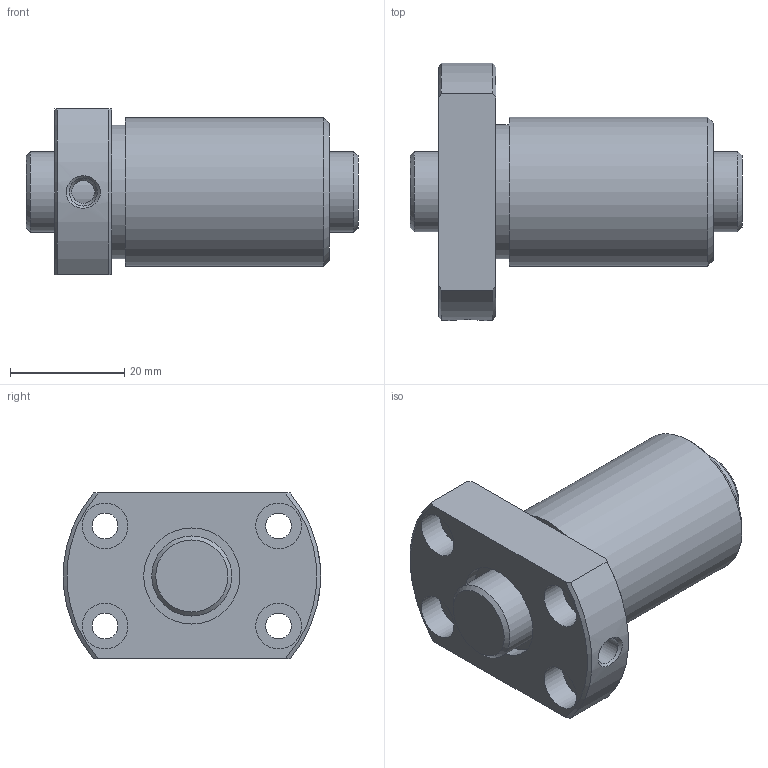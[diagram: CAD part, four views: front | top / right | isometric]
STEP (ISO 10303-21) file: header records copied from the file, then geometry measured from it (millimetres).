
FILE_DESCRIPTION(/* description */ ('STEP AP203'),/* implementation_level */ '2;1');
FILE_NAME(/* name */ 'DK1404-4RRG1+58LC0_000',/* time_stamp */ '2025-01-13T09:07:03+01:00',/* author */ ('License CC BY-ND 4.0'),/* organization */ ('CADENAS'),/* preprocessor_version */ 'ST-DEVELOPER v19.3',/* originating_system */ 'PARTsolutions',/* authorisation */ ' ');
FILE_SCHEMA (('CONFIG_CONTROL_DESIGN'));
Length unit declared in the file: millimetre
Products named in the file (3): DK1404-4RRG1+58LC0_000; DK 1404-4RR05800 Shaft; DK 1404-4RR0Nut
Assembly tree (2 placements, depth 2):
  DK1404-4RRG1+58LC0_000
    DK 1404-4RR05800 Shaft
    DK 1404-4RR0Nut
Bounding box: 58 x 44.93 x 29 mm (x, y, z)
Volume: 31678.7 mm3; surface area: 12409.6 mm2
Topology: 2 solids, 2 shells, 41 faces, 83 edges, 54 vertices
Faces by surface type: cylinder 18, plane 14, cone 9
Full cylindrical faces by diameter (mm): 4 x1, 4.5 x4, 4.917 x1, 8 x4, 14 x2, 16.8 x2, 23.4 x1, 26 x1
Entity records: 1087 total; most frequent: CARTESIAN_POINT 200, DIRECTION 180, ORIENTED_EDGE 120, AXIS2_PLACEMENT_3D 86, EDGE_LOOP 82, FACE_BOUND 82, EDGE_CURVE 60, VERTEX_POINT 52
